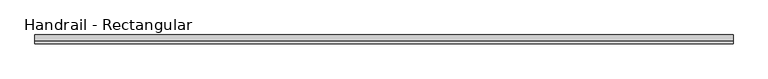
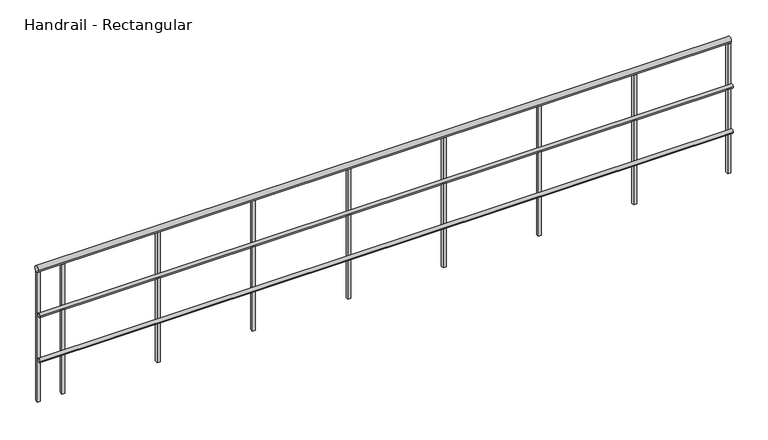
"""IFC4 building model written with IfcOpenShell, lengths in millimetres: railing geometry, Handrail - Rectangular."""

from ifc_helpers import new_model, si_unit, point, frame, frame_2d, origin, place, context, project, spatial, polyline, circle_curve, trimmed, segment, composite_curve, outline, extrude, source, transform, mapped, element, save


def handrail_rectangular_5c72b83f(model_context):
    return source(origin(), model_context, "Body", "SweptSolid", [
        extrude(outline(composite_curve([segment(trimmed(circle_curve(frame_2d((-35578.5683133, 3644.9)), 12.7), [point((-35591.2683133, 3644.9))], [point((-35565.8683133, 3644.9))], False, "CARTESIAN"), True, "CONTINUOUS"), segment(trimmed(circle_curve(frame_2d((-35578.5683133, 3644.9)), 12.7), [point((-35565.8683133, 3644.9))], [point((-35591.2683133, 3644.9))], False, "CARTESIAN"), True, "CONTINUOUS")], self_intersect=False)), frame((-30440.2839563, 0.0, 0.0), z_axis=(1.0, 0.0, 0.0), x_axis=(0.0, 1.0, 0.0)), (0.0, 0.0, 1.0), 4432.3),
        extrude(outline(composite_curve([segment(trimmed(circle_curve(frame_2d((-35578.5683133, 3340.1)), 12.7), [point((-35591.2683133, 3340.1))], [point((-35565.8683133, 3340.1))], False, "CARTESIAN"), True, "CONTINUOUS"), segment(trimmed(circle_curve(frame_2d((-35578.5683133, 3340.1)), 12.7), [point((-35565.8683133, 3340.1))], [point((-35591.2683133, 3340.1))], False, "CARTESIAN"), True, "CONTINUOUS")], self_intersect=False)), frame((-30440.2839563, 0.0, 0.0), z_axis=(1.0, 0.0, 0.0), x_axis=(0.0, 1.0, 0.0)), (0.0, 0.0, 1.0), 4432.3),
        extrude(outline(composite_curve([segment(trimmed(circle_curve(frame_2d((-35553.1683133, 3943.35)), 19.05), [point((-35572.2183133, 3943.35))], [point((-35534.1183133, 3943.35))], False, "CARTESIAN"), True, "CONTINUOUS"), segment(trimmed(circle_curve(frame_2d((-35553.1683133, 3943.35)), 19.05), [point((-35534.1183133, 3943.35))], [point((-35572.2183133, 3943.35))], False, "CARTESIAN"), True, "CONTINUOUS")], self_intersect=False)), frame((-30440.2839563, 0.0, 0.0), z_axis=(1.0, 0.0, 0.0), x_axis=(0.0, 1.0, 0.0)), (0.0, 0.0, 1.0), 4432.3),
        extrude(outline(polyline([(-30265.6589563, -35543.6433133), (-30265.6589563, -35562.6933133), (-30284.7089563, -35562.6933133), (-30284.7089563, -35543.6433133), (-30265.6589563, -35543.6433133)])), frame((0.0, 0.0, 3048.0), z_axis=(0.0, 0.0, 1.0), x_axis=(1.0, 0.0, 0.0)), (0.0, 0.0, 1.0), 876.3),
        extrude(outline(polyline([(-29656.0589563, -35543.6433133), (-29656.0589563, -35562.6933133), (-29675.1089563, -35562.6933133), (-29675.1089563, -35543.6433133), (-29656.0589563, -35543.6433133)])), frame((0.0, 0.0, 3048.0), z_axis=(0.0, 0.0, 1.0), x_axis=(1.0, 0.0, 0.0)), (0.0, 0.0, 1.0), 876.3),
        extrude(outline(polyline([(-29046.4589563, -35543.6433133), (-29046.4589563, -35562.6933133), (-29065.5089563, -35562.6933133), (-29065.5089563, -35543.6433133), (-29046.4589563, -35543.6433133)])), frame((0.0, 0.0, 3048.0), z_axis=(0.0, 0.0, 1.0), x_axis=(1.0, 0.0, 0.0)), (0.0, 0.0, 1.0), 876.3),
        extrude(outline(polyline([(-28436.8589563, -35543.6433133), (-28436.8589563, -35562.6933133), (-28455.9089563, -35562.6933133), (-28455.9089563, -35543.6433133), (-28436.8589563, -35543.6433133)])), frame((0.0, 0.0, 3048.0), z_axis=(0.0, 0.0, 1.0), x_axis=(1.0, 0.0, 0.0)), (0.0, 0.0, 1.0), 876.3),
        extrude(outline(polyline([(-27827.2589563, -35543.6433133), (-27827.2589563, -35562.6933133), (-27846.3089563, -35562.6933133), (-27846.3089563, -35543.6433133), (-27827.2589563, -35543.6433133)])), frame((0.0, 0.0, 3048.0), z_axis=(0.0, 0.0, 1.0), x_axis=(1.0, 0.0, 0.0)), (0.0, 0.0, 1.0), 876.3),
        extrude(outline(polyline([(-27217.6589563, -35543.6433133), (-27217.6589563, -35562.6933133), (-27236.7089563, -35562.6933133), (-27236.7089563, -35543.6433133), (-27217.6589563, -35543.6433133)])), frame((0.0, 0.0, 3048.0), z_axis=(0.0, 0.0, 1.0), x_axis=(1.0, 0.0, 0.0)), (0.0, 0.0, 1.0), 876.3),
        extrude(outline(polyline([(-26608.0589563, -35543.6433133), (-26608.0589563, -35562.6933133), (-26627.1089563, -35562.6933133), (-26627.1089563, -35543.6433133), (-26608.0589563, -35543.6433133)])), frame((0.0, 0.0, 3048.0), z_axis=(0.0, 0.0, 1.0), x_axis=(1.0, 0.0, 0.0)), (0.0, 0.0, 1.0), 876.3),
        extrude(outline(polyline([(-30421.2339563, -35543.6433133), (-30421.2339563, -35562.6933133), (-30440.2839563, -35562.6933133), (-30440.2839563, -35543.6433133), (-30421.2339563, -35543.6433133)])), frame((0.0, 0.0, 3048.0), z_axis=(0.0, 0.0, 1.0), x_axis=(1.0, 0.0, 0.0)), (0.0, 0.0, 1.0), 876.3),
        extrude(outline(polyline([(-26007.9839563, -35543.6433133), (-26007.9839563, -35562.6933133), (-26027.0339563, -35562.6933133), (-26027.0339563, -35543.6433133), (-26007.9839563, -35543.6433133)])), frame((0.0, 0.0, 3048.0), z_axis=(0.0, 0.0, 1.0), x_axis=(1.0, 0.0, 0.0)), (0.0, 0.0, 1.0), 876.3),
    ])


if __name__ == "__main__":
    model = new_model("IFC4")
    model_context = context("Model", 3, world=origin())
    ifc_project = project(units=[si_unit("LENGTHUNIT", "METRE", prefix="MILLI")], contexts=[model_context])
    site = spatial("IfcSite", under=ifc_project)
    building = spatial("IfcBuilding", under=site)
    placement = place(None, origin())
    handrail_rectangular_shape = handrail_rectangular_5c72b83f(model_context)
    element("IfcRailing", 1, ObjectType="Handrail - Rectangular", at=placement, inside=building, context=model_context, shape_type="MappedRepresentation", body=[
        mapped(handrail_rectangular_shape, transform((0.0, 0.0, 0.0), x_axis=(1.0, 0.0, 0.0), y_axis=(0.0, 1.0, 0.0), z_axis=(0.0, 0.0, 1.0))),
    ])
    save(model, "model.ifc")
